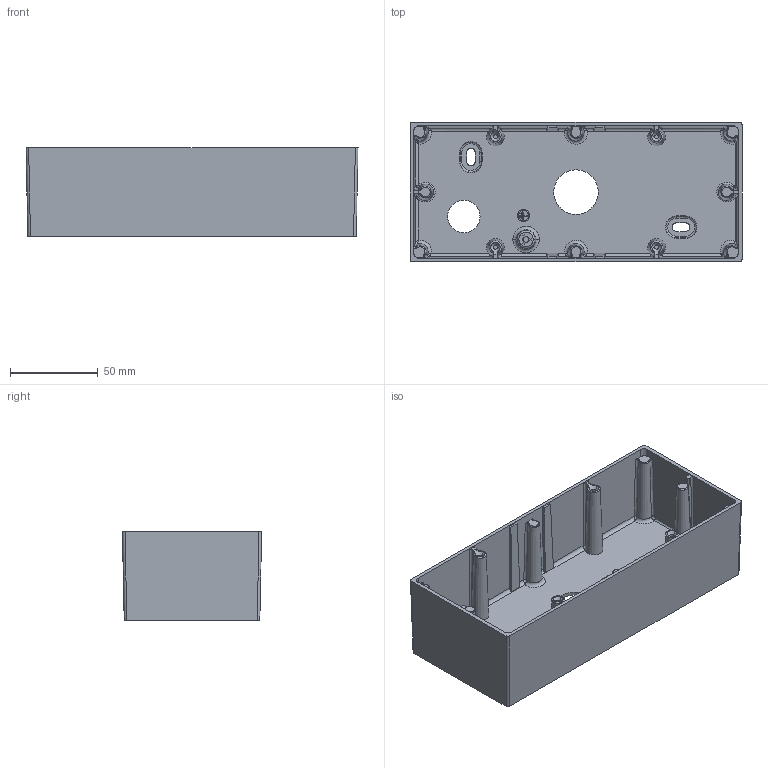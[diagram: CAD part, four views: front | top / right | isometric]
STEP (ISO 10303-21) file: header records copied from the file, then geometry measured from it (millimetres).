
FILE_DESCRIPTION(/* description */ (''),/* implementation_level */ '2;1');
FILE_NAME(/* name */ 'C:\Users\francosartori\Documents\Modelos\01_Digitalizados\0_DART\03_Publicación\70280 - Vista 3D - {3D}.stp',/* time_stamp */ '2020-06-23T14:02:00+02:00',/* author */ ('FrancoSartori'),/* organization */ (''),/* preprocessor_version */ 'ST-DEVELOPER v18.1',/* originating_system */ 'AutoCAD Mechanical',/* authorisation */ '');
FILE_SCHEMA (('AUTOMOTIVE_DESIGN { 1 0 10303 214 3 1 1 }'));
Length unit declared in the file: millimetre
Products named in the file (1): Product
Bounding box: 189.5 x 79.5 x 50.25 mm (x, y, z)
Surface area: 85886.5 mm2 (no closed solid volume)
Topology: 0 solids, 1 shells, 292 faces, 865 edges, 539 vertices
Faces by surface type: plane 99, cylinder 68, bspline 59, cone 34, torus 32
Entity records: 21674 total; most frequent: CARTESIAN_POINT 14967, ORIENTED_EDGE 1537, DIRECTION 1012, EDGE_CURVE 855, VERTEX_POINT 539, B_SPLINE_CURVE_WITH_KNOTS 406, LINE 338, VECTOR 338
